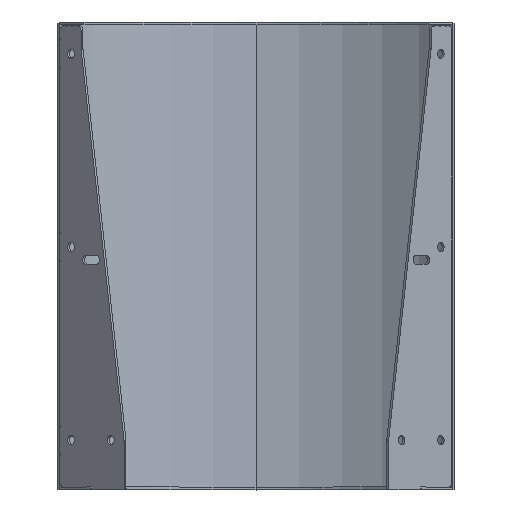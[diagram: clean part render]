
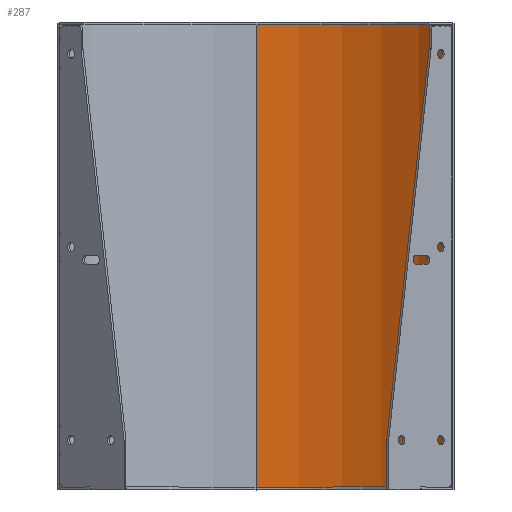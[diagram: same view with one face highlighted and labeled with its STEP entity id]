
A CAD part, top view. The second image highlights one B-rep face of the part: STEP entity #287.
In plain terms, the highlighted cylindrical face has radius 297 mm (diameter 594 mm), a partial arc.
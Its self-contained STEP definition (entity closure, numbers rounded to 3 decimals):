
#30 = AXIS2_PLACEMENT_3D ( 'NONE', #119, #1140, #892 ) ;
#39 = CIRCLE ( 'NONE', #474, 297. ) ;
#119 = CARTESIAN_POINT ( 'NONE',  ( 212.132, 0., 212.132 ) ) ;
#134 = CARTESIAN_POINT ( 'NONE',  ( 212.132, 933.703, 212.132 ) ) ;
#163 = EDGE_CURVE ( 'NONE', #2689, #318, #1510, .T. ) ;
#164 = CARTESIAN_POINT ( 'NONE',  ( 422.143, 498.5, 2.121 ) ) ;
#287 = ADVANCED_FACE ( 'NONE', ( #2426 ), #2483, .F. ) ;
#318 = VERTEX_POINT ( 'NONE', #956 ) ;
#375 = DIRECTION ( 'NONE',  ( 0., -1., 0. ) ) ;
#399 = LINE ( 'NONE', #2978, #2981 ) ;
#431 = CARTESIAN_POINT ( 'NONE',  ( 212.132, 498.5, -84.868 ) ) ;
#456 = EDGE_LOOP ( 'NONE', ( #2368, #1843, #1026, #3100 ) ) ;
#474 = AXIS2_PLACEMENT_3D ( 'NONE', #1447, #2194, #1715 ) ;
#892 = DIRECTION ( 'NONE',  ( 1., 0., 0. ) ) ;
#928 = DIRECTION ( 'NONE',  ( 0., -1., 0. ) ) ;
#956 = CARTESIAN_POINT ( 'NONE',  ( 212.132, 0., -84.868 ) ) ;
#1026 = ORIENTED_EDGE ( 'NONE', *, *, #163, .F. ) ;
#1140 = DIRECTION ( 'NONE',  ( 0., 1., 0. ) ) ;
#1207 = EDGE_CURVE ( 'NONE', #2457, #2689, #2728, .T. ) ;
#1447 = CARTESIAN_POINT ( 'NONE',  ( 212.132, 498.5, 212.132 ) ) ;
#1510 = CIRCLE ( 'NONE', #30, 297. ) ;
#1673 = EDGE_CURVE ( 'NONE', #2259, #318, #399, .T. ) ;
#1715 = DIRECTION ( 'NONE',  ( 0., 0., 1. ) ) ;
#1843 = ORIENTED_EDGE ( 'NONE', *, *, #1673, .T. ) ;
#1968 = DIRECTION ( 'NONE',  ( 0., 0., -1. ) ) ;
#2105 = AXIS2_PLACEMENT_3D ( 'NONE', #134, #928, #1968 ) ;
#2194 = DIRECTION ( 'NONE',  ( 0., 1., 0. ) ) ;
#2225 = DIRECTION ( 'NONE',  ( 0., -1., 0. ) ) ;
#2259 = VERTEX_POINT ( 'NONE', #431 ) ;
#2368 = ORIENTED_EDGE ( 'NONE', *, *, #3032, .T. ) ;
#2426 = FACE_OUTER_BOUND ( 'NONE', #456, .T. ) ;
#2442 = CARTESIAN_POINT ( 'NONE',  ( 422.143, 933.703, 2.121 ) ) ;
#2457 = VERTEX_POINT ( 'NONE', #164 ) ;
#2483 = CYLINDRICAL_SURFACE ( 'NONE', #2105, 297. ) ;
#2689 = VERTEX_POINT ( 'NONE', #2848 ) ;
#2728 = LINE ( 'NONE', #2442, #3324 ) ;
#2848 = CARTESIAN_POINT ( 'NONE',  ( 422.143, 0., 2.121 ) ) ;
#2978 = CARTESIAN_POINT ( 'NONE',  ( 212.132, 933.703, -84.868 ) ) ;
#2981 = VECTOR ( 'NONE', #2225, 1000. ) ;
#3032 = EDGE_CURVE ( 'NONE', #2457, #2259, #39, .T. ) ;
#3100 = ORIENTED_EDGE ( 'NONE', *, *, #1207, .F. ) ;
#3324 = VECTOR ( 'NONE', #375, 1000. ) ;
